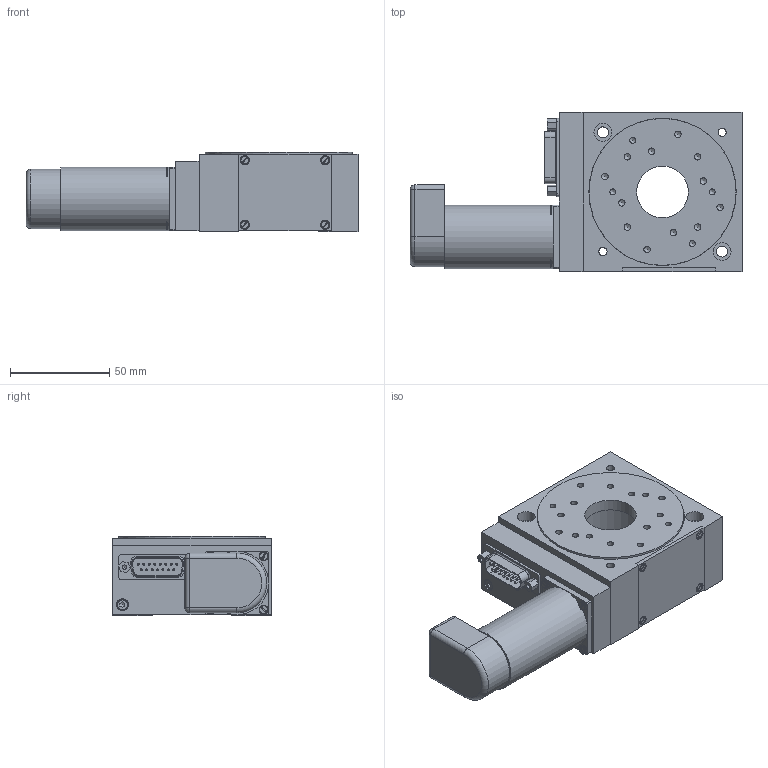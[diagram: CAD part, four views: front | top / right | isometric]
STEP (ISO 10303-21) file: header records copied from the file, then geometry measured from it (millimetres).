
FILE_DESCRIPTION(/* description */ (''),/* implementation_level */ '2;1');
FILE_NAME(/* name */ 'H:\Inventor\Katalog\3D-CAD-Modelle\STP neu\RT4-NSOx-CAD.stp',/* time_stamp */ '2024-01-25T15:20:00+01:00',/* author */ ('KON3'),/* organization */ (''),/* preprocessor_version */ 'ST-DEVELOPER v18',/* originating_system */ 'Autodesk Inventor 2020',/* authorisation */ '');
FILE_SCHEMA (('AUTOMOTIVE_DESIGN { 1 0 10303 214 3 1 1 }'));
Length unit declared in the file: millimetre
Products named in the file (5): RT4-NSOx-CAD; RT4-NSOx_NGOx_unten; RT4_07-CAD; ZSS33-D_Shrinkwrap_1; ZSS33-MOK_25_ohne_Kabel_Shrinkwrap
Assembly tree (4 placements, depth 2):
  RT4-NSOx-CAD
    RT4-NSOx_NGOx_unten
    RT4_07-CAD
    ZSS33-D_Shrinkwrap_1
    ZSS33-MOK_25_ohne_Kabel_Shrinkwrap
Bounding box: 167.1 x 80.01 x 40 mm (x, y, z)
Volume: 338675.7 mm3; surface area: 84570.8 mm2
Topology: 26 solids, 26 shells, 1039 faces, 2669 edges, 1791 vertices
Faces by surface type: plane 518, cylinder 221, bspline 194, cone 78, torus 25, sphere 3
Full cylindrical faces by diameter (mm): 1 x30, 1.567 x4, 2 x4, 2.013 x4, 2.156 x2, 2.256 x8, 2.4 x4, 2.459 x6, 2.5 x8, 2.8 x8, 3 x8, 3.2 x2, 3.242 x12, 3.4 x5, 4 x7, 4.134 x2, 5.5 x4, 6 x3, 9 x2, 10 x2, 18 x3, 18.1 x1, 26 x1, 28 x1, 32 x2, 41.2 x1, 74 x1, 74.2 x1
Entity records: 35203 total; most frequent: CARTESIAN_POINT 9282, ORIENTED_EDGE 5262, DIRECTION 4708, EDGE_CURVE 2631, VERTEX_POINT 1791, AXIS2_PLACEMENT_3D 1663, LINE 1382, VECTOR 1382
